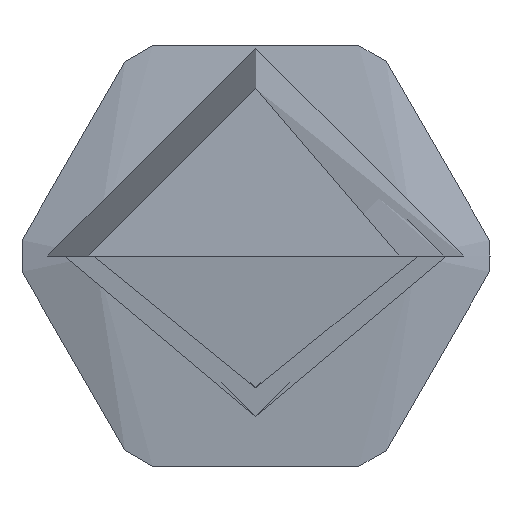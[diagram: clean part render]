
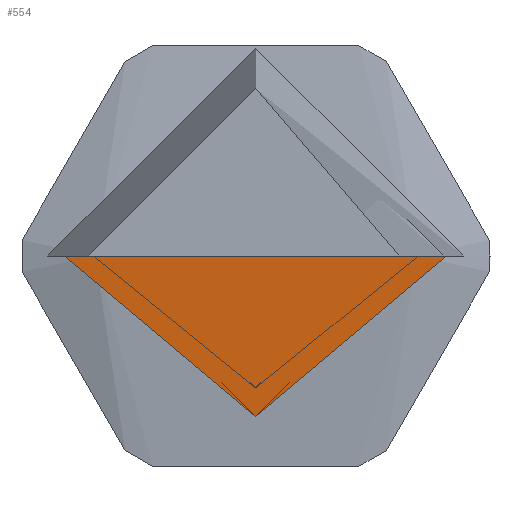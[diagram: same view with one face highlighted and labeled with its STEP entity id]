
A CAD part, left-side view. The second image highlights one B-rep face of the part: STEP entity #554.
In plain terms, the highlighted free-form (B-spline) face has degree [1, 2] with [2, 9] control points.
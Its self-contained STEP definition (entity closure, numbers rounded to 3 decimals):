
#182 = VERTEX_POINT('',#183);
#183 = CARTESIAN_POINT('',(22.,0.,-8.4));
#188 = EDGE_CURVE('',#182,#189,#191,.T.);
#189 = VERTEX_POINT('',#190);
#190 = CARTESIAN_POINT('',(22.,8.4,0.));
#191 = ( BOUNDED_CURVE() B_SPLINE_CURVE(2,(#192,#193,#194),
.UNSPECIFIED.,.F.,.F.) B_SPLINE_CURVE_WITH_KNOTS((3,3),(4.712,
6.283),.PIECEWISE_BEZIER_KNOTS.) CURVE() 
GEOMETRIC_REPRESENTATION_ITEM() RATIONAL_B_SPLINE_CURVE((1.,
0.707,1.)) REPRESENTATION_ITEM('') );
#192 = CARTESIAN_POINT('',(22.,0.,-8.4));
#193 = CARTESIAN_POINT('',(22.,8.4,-8.4));
#194 = CARTESIAN_POINT('',(22.,8.4,0.));
#196 = EDGE_CURVE('',#189,#197,#199,.T.);
#197 = VERTEX_POINT('',#198);
#198 = CARTESIAN_POINT('',(22.,-8.4,0.));
#199 = ( BOUNDED_CURVE() B_SPLINE_CURVE(2,(#200,#201,#202,#203,#204),
.UNSPECIFIED.,.F.,.F.) B_SPLINE_CURVE_WITH_KNOTS((3,2,3),(0.,
1.571,3.142),.UNSPECIFIED.) CURVE() 
GEOMETRIC_REPRESENTATION_ITEM() RATIONAL_B_SPLINE_CURVE((1.,
0.707,1.,0.707,1.)) REPRESENTATION_ITEM('') );
#200 = CARTESIAN_POINT('',(22.,8.4,0.));
#201 = CARTESIAN_POINT('',(22.,8.4,8.4));
#202 = CARTESIAN_POINT('',(22.,0.,8.4));
#203 = CARTESIAN_POINT('',(22.,-8.4,8.4));
#204 = CARTESIAN_POINT('',(22.,-8.4,0.));
#206 = EDGE_CURVE('',#197,#182,#207,.T.);
#207 = ( BOUNDED_CURVE() B_SPLINE_CURVE(2,(#208,#209,#210),
.UNSPECIFIED.,.F.,.F.) B_SPLINE_CURVE_WITH_KNOTS((3,3),(3.142,
4.712),.PIECEWISE_BEZIER_KNOTS.) CURVE() 
GEOMETRIC_REPRESENTATION_ITEM() RATIONAL_B_SPLINE_CURVE((1.,
0.707,1.)) REPRESENTATION_ITEM('') );
#208 = CARTESIAN_POINT('',(22.,-8.4,0.));
#209 = CARTESIAN_POINT('',(22.,-8.4,-8.4));
#210 = CARTESIAN_POINT('',(22.,0.,-8.4));
#507 = EDGE_CURVE('',#508,#510,#512,.T.);
#508 = VERTEX_POINT('',#509);
#509 = CARTESIAN_POINT('',(21.,10.,0.));
#510 = VERTEX_POINT('',#511);
#511 = CARTESIAN_POINT('',(21.,-10.,0.));
#512 = ( BOUNDED_CURVE() B_SPLINE_CURVE(2,(#513,#514,#515,#516,#517),
.UNSPECIFIED.,.F.,.F.) B_SPLINE_CURVE_WITH_KNOTS((3,2,3),(0.,
1.571,3.142),.UNSPECIFIED.) CURVE() 
GEOMETRIC_REPRESENTATION_ITEM() RATIONAL_B_SPLINE_CURVE((1.,
0.707,1.,0.707,1.)) REPRESENTATION_ITEM('') );
#513 = CARTESIAN_POINT('',(21.,10.,0.));
#514 = CARTESIAN_POINT('',(21.,10.,10.));
#515 = CARTESIAN_POINT('',(21.,0.,10.));
#516 = CARTESIAN_POINT('',(21.,-10.,10.));
#517 = CARTESIAN_POINT('',(21.,-10.,0.));
#519 = EDGE_CURVE('',#510,#508,#520,.T.);
#520 = ( BOUNDED_CURVE() B_SPLINE_CURVE(2,(#521,#522,#523,#524,#525),
.UNSPECIFIED.,.F.,.F.) B_SPLINE_CURVE_WITH_KNOTS((3,2,3),(3.142,
4.712,6.283),.PIECEWISE_BEZIER_KNOTS.) CURVE() 
GEOMETRIC_REPRESENTATION_ITEM() RATIONAL_B_SPLINE_CURVE((1.,
0.707,1.,0.707,1.)) REPRESENTATION_ITEM('') );
#521 = CARTESIAN_POINT('',(21.,-10.,0.));
#522 = CARTESIAN_POINT('',(21.,-10.,-10.));
#523 = CARTESIAN_POINT('',(21.,0.,-10.));
#524 = CARTESIAN_POINT('',(21.,10.,-10.));
#525 = CARTESIAN_POINT('',(21.,10.,0.));
#554 = ADVANCED_FACE('',(#555),#568,.T.);
#555 = FACE_BOUND('',#556,.T.);
#556 = EDGE_LOOP('',(#557,#558,#559,#560,#565,#566,#567));
#557 = ORIENTED_EDGE('',*,*,#196,.F.);
#558 = ORIENTED_EDGE('',*,*,#188,.F.);
#559 = ORIENTED_EDGE('',*,*,#206,.F.);
#560 = ORIENTED_EDGE('',*,*,#561,.T.);
#561 = EDGE_CURVE('',#197,#510,#562,.T.);
#562 = B_SPLINE_CURVE_WITH_KNOTS('',1,(#563,#564),.UNSPECIFIED.,.F.,.F.,
  (2,2),(-0.103,0.103),.PIECEWISE_BEZIER_KNOTS.);
#563 = CARTESIAN_POINT('',(22.,-8.4,0.));
#564 = CARTESIAN_POINT('',(21.,-10.,0.));
#565 = ORIENTED_EDGE('',*,*,#519,.T.);
#566 = ORIENTED_EDGE('',*,*,#507,.T.);
#567 = ORIENTED_EDGE('',*,*,#561,.F.);
#568 = ( BOUNDED_SURFACE() B_SPLINE_SURFACE(1,2,(
    (#569,#570,#571,#572,#573,#574,#575,#576,#577)
    ,(#578,#579,#580,#581,#582,#583,#584,#585,#586
)),.UNSPECIFIED.,.F.,.T.,.F.) B_SPLINE_SURFACE_WITH_KNOTS((2,2),(1,2,2,2
    ,2,2,1),(-0.103,0.103),(-4.712,
    -3.142,-1.571,0.,1.571,3.142,
4.712),.UNSPECIFIED.) GEOMETRIC_REPRESENTATION_ITEM() 
RATIONAL_B_SPLINE_SURFACE((
    (1.,0.707,1.,0.707,1.,0.707,1.
      ,0.707,1.)
    ,(1.,0.707,1.,0.707,1.,0.707,1.
,0.707,1.))) REPRESENTATION_ITEM('') SURFACE() );
#569 = CARTESIAN_POINT('',(22.,-8.4,0.));
#570 = CARTESIAN_POINT('',(22.,-8.4,-8.4));
#571 = CARTESIAN_POINT('',(22.,0.,-8.4));
#572 = CARTESIAN_POINT('',(22.,8.4,-8.4));
#573 = CARTESIAN_POINT('',(22.,8.4,0.));
#574 = CARTESIAN_POINT('',(22.,8.4,8.4));
#575 = CARTESIAN_POINT('',(22.,0.,8.4));
#576 = CARTESIAN_POINT('',(22.,-8.4,8.4));
#577 = CARTESIAN_POINT('',(22.,-8.4,0.));
#578 = CARTESIAN_POINT('',(21.,-10.,0.));
#579 = CARTESIAN_POINT('',(21.,-10.,-10.));
#580 = CARTESIAN_POINT('',(21.,0.,-10.));
#581 = CARTESIAN_POINT('',(21.,10.,-10.));
#582 = CARTESIAN_POINT('',(21.,10.,0.));
#583 = CARTESIAN_POINT('',(21.,10.,10.));
#584 = CARTESIAN_POINT('',(21.,0.,10.));
#585 = CARTESIAN_POINT('',(21.,-10.,10.));
#586 = CARTESIAN_POINT('',(21.,-10.,0.));
